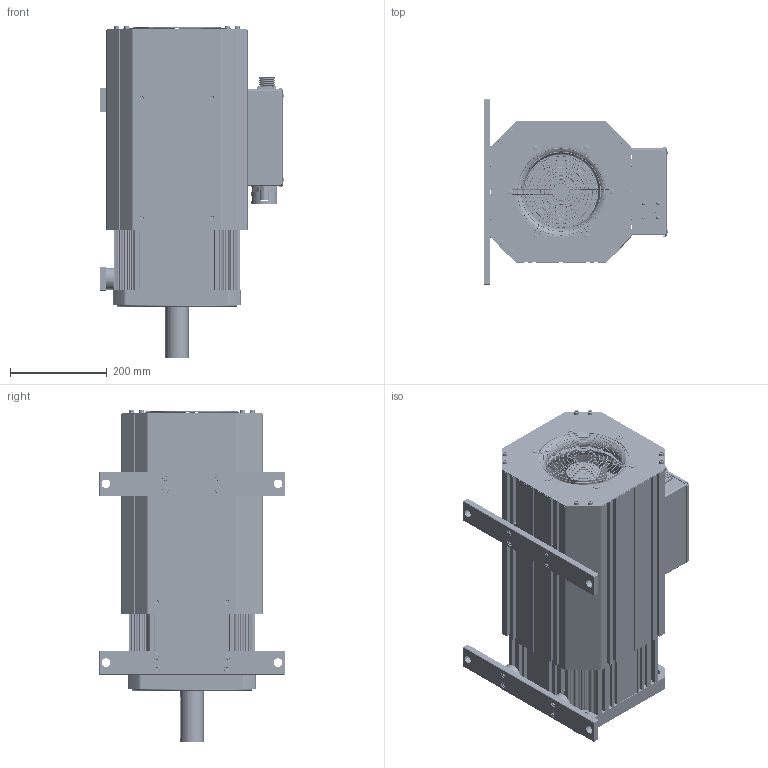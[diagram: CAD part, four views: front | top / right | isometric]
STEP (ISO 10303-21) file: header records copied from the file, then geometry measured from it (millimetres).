
FILE_DESCRIPTION((''),'2;1');
FILE_NAME('IMS20A-26M48D20C-4-XXF-A_ASM','2023-06-05T13:27:01',('admin'),(''),'CREO PARAMETRIC BY PTC INC, 2019080','CREO PARAMETRIC BY PTC INC, 2019080','');
FILE_SCHEMA(('CONFIG_CONTROL_DESIGN'));
Products named in the file (80): JK_K239_10200-99101_1_1; DZZZ_K239_80200-09010_ASM_1_ASM_ASM; ZZ_K239_12400-19020_1_1; ZC_Q_250_30400-02003_1_1; ZCZDQ_250_11200-01002_1_1; QDG_250_10600-02003_1_1; M8X45_1_1; ZZZJ_K239_80500-07008_ASM_1_ASM_ASM; M10X40_1_1; HDG_250_21200-01002_1_1; HGMB_250_21600-02003_1_1; CDLD_5X10_1_1; FJ_250_40000-01002_1_1; FJGDB_250_11400-02003_1_1; CTLD_4X8_1_1; FJZJ_250_80700-01002_ASM_1_ASM__ASM; M4X10_1_1; FDB_L_K239_12900-75076_1_1; FDB_Y_K239_12900-75076_1_1; FDB_K239_12900-75076_1_1; FDB_0_K239_12900-75076_1_1; FDB_K239_12900-75076_ASM_1_ASM__ASM; M6X20_NO_1_1; FJFHB_250_11100-01002_1_1; DFQ_250_30700-00001_1_1; FHW_250_30500-01002_1_1_1; FHW_250_30500-01002_1_2_1; FHW_250_30500-01002_1_3_1; FHW_250_30500-01002_1_4_1; FHW_250_30500-01002_1_5_1; FHW_250_30500-01002_1_6_1; FHW_250_30500-01002_1_7_1; FHW_250_30500-01002_1_8_1; FHW_250_30500-01002_1_9_1; FHW_250_30500-01002_1_10_1; FHW_250_30500-01002_1_11_1; FHW_250_30500-01002_1_12_1; FHW_250_30500-01002_1_13_1; FHW_250_30500-01002_1_14_1; FHW_250_30500-01002_1_15_1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
Assembly tree (174 placements, depth 6):
  IMS20A-26M48D20C-4-XXF-A_ASM
    IMS26A-26M48D20C-4-XXF-A__ASM_1_ASM
      K239F18C25P_ASM_1_ASM_1_ASM
        DZZZ_K239_80200-09010_ASM_1_ASM_ASM
          JK_K239_10200-99101_1_1
        ZZZJ_K239_80500-07008_ASM_1_ASM_ASM
          ZZ_K239_12400-19020_1_1
          ZC_Q_250_30400-02003_1_1
          ZCZDQ_250_11200-01002_1_1
          QDG_250_10600-02003_1_1
          M8X45_1_1  x4
        M10X40_1_1  x16
        HDG_250_21200-01002_1_1
        HGMB_250_21600-02003_1_1
        CDLD_5X10_1_1  x6
        FJZJ_250_80700-01002_ASM_1_ASM__ASM
          FJ_250_40000-01002_1_1
          FJGDB_250_11400-02003_1_1
          CTLD_4X8_1_1  x4
        M4X10_1_1  x4
        FDB_K239_12900-75076_ASM_1_ASM__ASM
          FDB_L_K239_12900-75076_1_1
          FDB_Y_K239_12900-75076_1_1
          FDB_K239_12900-75076_1_1  x3
          FDB_0_K239_12900-75076_1_1  x3
        M6X20_NO_1_1  x16
        FJFHBZJ_250_80800-01002_ASM_1_A_ASM
          FJFHB_250_11100-01002_1_1
          DFQ_250_30700-00001_1_1
          FHW_250_30500-01002_1_ASM_1_ASM
            FHW_250_30500-01002_1_1_1
            FHW_250_30500-01002_1_2_1
            FHW_250_30500-01002_1_3_1
            FHW_250_30500-01002_1_4_1
            FHW_250_30500-01002_1_5_1
            FHW_250_30500-01002_1_6_1
            FHW_250_30500-01002_1_7_1
            FHW_250_30500-01002_1_8_1
            FHW_250_30500-01002_1_9_1
            FHW_250_30500-01002_1_10_1
            FHW_250_30500-01002_1_11_1
            FHW_250_30500-01002_1_12_1
            FHW_250_30500-01002_1_13_1
            FHW_250_30500-01002_1_14_1
            FHW_250_30500-01002_1_15_1
            FHW_250_30500-01002_1_16_1
          PDQ_4_KB_1_1  x6
          MD_4X12_1_1  x6
        M6X10_1_1  x8
        YXHQ_250_20300-01002_1_1
        O_40_50000-11012_1_1  x2
        JXHZJ_250_81100-01003_ASM_1_ASM_ASM
          JXHT_250_41000-10011_1_1
          XJD_250_50800-12013_1_1
          JXHG_250_41000-00001_1_1
          MFD_YD28-15P_1_1
          HKXZ_YD28-15P_40100-00001_1_1
          DR_40400-05006_1_1
          JXDZ_100A_40200-10011_ASM_1_ASM_ASM
            JXDZ-1_100A_40200-10011_1_1
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Bounding box: 382.69 x 384 x 687 mm (x, y, z)
Volume: 14803380.1 mm3; surface area: 4680567.7 mm2
Topology: 162 solids, 214 shells, 8185 faces, 23056 edges, 15468 vertices
Faces by surface type: plane 4586, cylinder 2459, torus 442, cone 430, bspline 236, sphere 32
Entity records: 192867 total; most frequent: CARTESIAN_POINT 45708, DIRECTION 31088, ORIENTED_EDGE 30704, EDGE_CURVE 15466, AXIS2_PLACEMENT_3D 11192, VERTEX_POINT 10453, VECTOR 8704, LINE 8704
